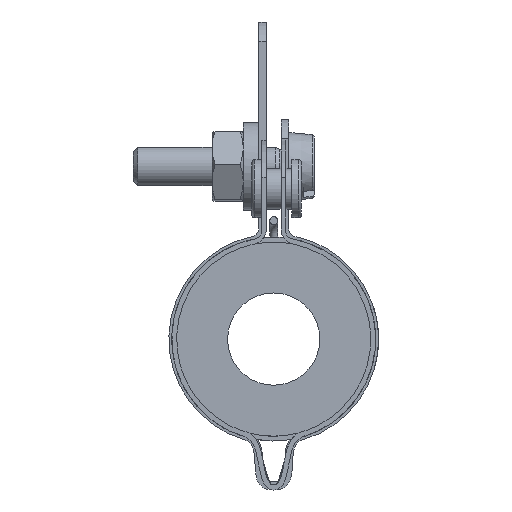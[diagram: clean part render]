
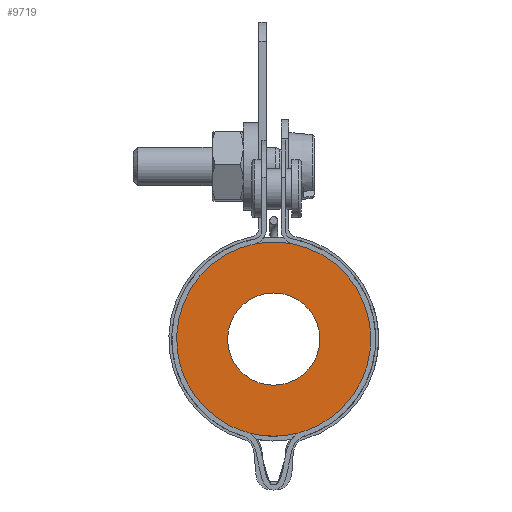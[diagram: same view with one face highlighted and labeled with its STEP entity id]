
A CAD part, front view. The second image highlights one B-rep face of the part: STEP entity #9719.
In plain terms, the highlighted planar face has unit normal (0, -1, 0).
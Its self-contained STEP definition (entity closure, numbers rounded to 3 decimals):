
#68=B_SPLINE_CURVE_WITH_KNOTS($,3,(#16305,#16306,#16307,#16308),
 .UNSPECIFIED.,.F.,.F.,(4,4),(0.,0.027),.UNSPECIFIED.);
#69=B_SPLINE_CURVE_WITH_KNOTS($,3,(#16312,#16313,#16314,#16315),
 .UNSPECIFIED.,.F.,.F.,(4,4),(0.125,0.151),
 .UNSPECIFIED.);
#770=LINE($,#16317,#1528);
#771=LINE($,#16324,#1529);
#1528=VECTOR($,#13224,0.151);
#1529=VECTOR($,#13231,0.151);
#1865=FACE_BOUND($,#2895,.T.);
#2320=FACE_OUTER_BOUND($,#2894,.T.);
#2894=EDGE_LOOP($,(#8027,#8028,#8029,#8030,#8031,#8032,#8033,#8034));
#2895=EDGE_LOOP($,(#8035));
#3458=CIRCLE($,#10673,4.75);
#3459=CIRCLE($,#10676,10.);
#3460=CIRCLE($,#10677,10.);
#3461=CIRCLE($,#10678,10.);
#3462=CIRCLE($,#10679,10.);
#4315=VERTEX_POINT($,#16299);
#4316=VERTEX_POINT($,#16303);
#4317=VERTEX_POINT($,#16304);
#4318=VERTEX_POINT($,#16309);
#4319=VERTEX_POINT($,#16311);
#4320=VERTEX_POINT($,#16316);
#4321=VERTEX_POINT($,#16318);
#4322=VERTEX_POINT($,#16320);
#4323=VERTEX_POINT($,#16322);
#5582=EDGE_CURVE($,#4315,#4315,#3458,.T.);
#5583=EDGE_CURVE($,#4316,#4317,#68,.T.);
#5584=EDGE_CURVE($,#4317,#4318,#3459,.T.);
#5585=EDGE_CURVE($,#4318,#4319,#69,.T.);
#5586=EDGE_CURVE($,#4319,#4320,#770,.T.);
#5587=EDGE_CURVE($,#4320,#4321,#3460,.T.);
#5588=EDGE_CURVE($,#4321,#4322,#3461,.T.);
#5589=EDGE_CURVE($,#4322,#4323,#3462,.T.);
#5590=EDGE_CURVE($,#4323,#4316,#771,.T.);
#8027=ORIENTED_EDGE($,*,*,#5583,.T.);
#8028=ORIENTED_EDGE($,*,*,#5584,.T.);
#8029=ORIENTED_EDGE($,*,*,#5585,.T.);
#8030=ORIENTED_EDGE($,*,*,#5586,.T.);
#8031=ORIENTED_EDGE($,*,*,#5587,.T.);
#8032=ORIENTED_EDGE($,*,*,#5588,.T.);
#8033=ORIENTED_EDGE($,*,*,#5589,.T.);
#8034=ORIENTED_EDGE($,*,*,#5590,.T.);
#8035=ORIENTED_EDGE($,*,*,#5582,.T.);
#8749=PLANE($,#10675);
#9719=ADVANCED_FACE($,(#2320,#1865),#8749,.T.);
#10673=AXIS2_PLACEMENT_3D($,#16300,#13216,#13217);
#10675=AXIS2_PLACEMENT_3D($,#16302,#13220,#13221);
#10676=AXIS2_PLACEMENT_3D($,#16310,#13222,#13223);
#10677=AXIS2_PLACEMENT_3D($,#16319,#13225,#13226);
#10678=AXIS2_PLACEMENT_3D($,#16321,#13227,#13228);
#10679=AXIS2_PLACEMENT_3D($,#16323,#13229,#13230);
#13216=DIRECTION('center_axis',(0.,1.,0.));
#13217=DIRECTION('ref_axis',(1.,0.,0.));
#13220=DIRECTION('center_axis',(0.,-1.,0.));
#13221=DIRECTION('ref_axis',(0.,0.,-1.));
#13222=DIRECTION('center_axis',(0.,-1.,0.));
#13223=DIRECTION('ref_axis',(1.,0.,0.));
#13224=DIRECTION($,(0.99,0.,0.144));
#13225=DIRECTION('center_axis',(0.,-1.,0.));
#13226=DIRECTION('ref_axis',(1.,0.,0.));
#13227=DIRECTION('center_axis',(0.,-1.,0.));
#13228=DIRECTION('ref_axis',(1.,0.,0.));
#13229=DIRECTION('center_axis',(0.,-1.,0.));
#13230=DIRECTION('ref_axis',(1.,0.,0.));
#13231=DIRECTION($,(0.99,0.,-0.144));
#16299=CARTESIAN_POINT('',(-4.75,0.,0.));
#16300=CARTESIAN_POINT('Origin',(0.,0.,0.));
#16302=CARTESIAN_POINT('Origin',(0.,0.,0.));
#16303=CARTESIAN_POINT('',(-2.851,0.,-9.561));
#16304=CARTESIAN_POINT('',(-2.604,0.,-9.655));
#16305=CARTESIAN_POINT('Ctrl Pts',(-2.851,0.,-9.561));
#16306=CARTESIAN_POINT('Ctrl Pts',(-2.765,0.,-9.587));
#16307=CARTESIAN_POINT('Ctrl Pts',(-2.682,0.,
-9.618));
#16308=CARTESIAN_POINT('Ctrl Pts',(-2.604,0.,-9.655));
#16309=CARTESIAN_POINT('',(2.604,0.,-9.655));
#16310=CARTESIAN_POINT('Origin',(0.,0.,0.));
#16311=CARTESIAN_POINT('',(2.851,0.,-9.561));
#16312=CARTESIAN_POINT('Ctrl Pts',(2.604,0.,-9.655));
#16313=CARTESIAN_POINT('Ctrl Pts',(2.682,0.,
-9.618));
#16314=CARTESIAN_POINT('Ctrl Pts',(2.765,0.,-9.587));
#16315=CARTESIAN_POINT('Ctrl Pts',(2.851,0.,-9.561));
#16316=CARTESIAN_POINT('',(3.,0.,-9.539));
#16317=CARTESIAN_POINT($,(2.138,0.,-9.665));
#16318=CARTESIAN_POINT('',(2.026,0.,9.793));
#16319=CARTESIAN_POINT('Origin',(0.,0.,0.));
#16320=CARTESIAN_POINT('',(-2.026,0.,9.793));
#16321=CARTESIAN_POINT('Origin',(0.,0.,0.));
#16322=CARTESIAN_POINT('',(-3.,0.,-9.539));
#16323=CARTESIAN_POINT('Origin',(0.,0.,0.));
#16324=CARTESIAN_POINT($,(-2.138,0.,-9.665));
